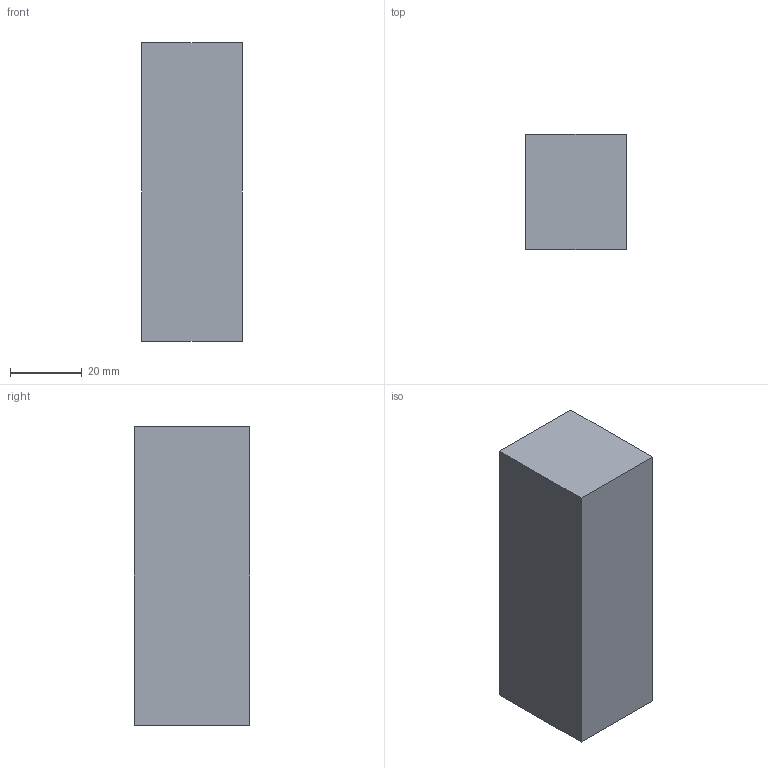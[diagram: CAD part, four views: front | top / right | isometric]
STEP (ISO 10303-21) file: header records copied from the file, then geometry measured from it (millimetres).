
FILE_DESCRIPTION(('Open CASCADE Model'),'2;1');
FILE_NAME('Open CASCADE Shape Model','2026-10-04T02:31:39',('Author'),( 'Open CASCADE'),'Open CASCADE STEP processor 8.0','Open CASCADE 8.0' ,'Unknown');
FILE_SCHEMA(('AUTOMOTIVE_DESIGN { 1 0 10303 214 1 1 1 1 }'));
Length unit declared in the file: millimetre
Products named in the file (1): Open CASCADE STEP translator 8.0 193
Bounding box: 28 x 32 x 83 mm (x, y, z)
Volume: 74368 mm3; surface area: 11752 mm2
Topology: 1 solids, 1 shells, 6 faces, 12 edges, 8 vertices
Faces by surface type: plane 6
Entity records: 322 total; most frequent: CARTESIAN_POINT 51, DIRECTION 50, LINE 36, VECTOR 36, ORIENTED_EDGE 24, PCURVE 24, DEFINITIONAL_REPRESENTATION 24, EDGE_CURVE 12
